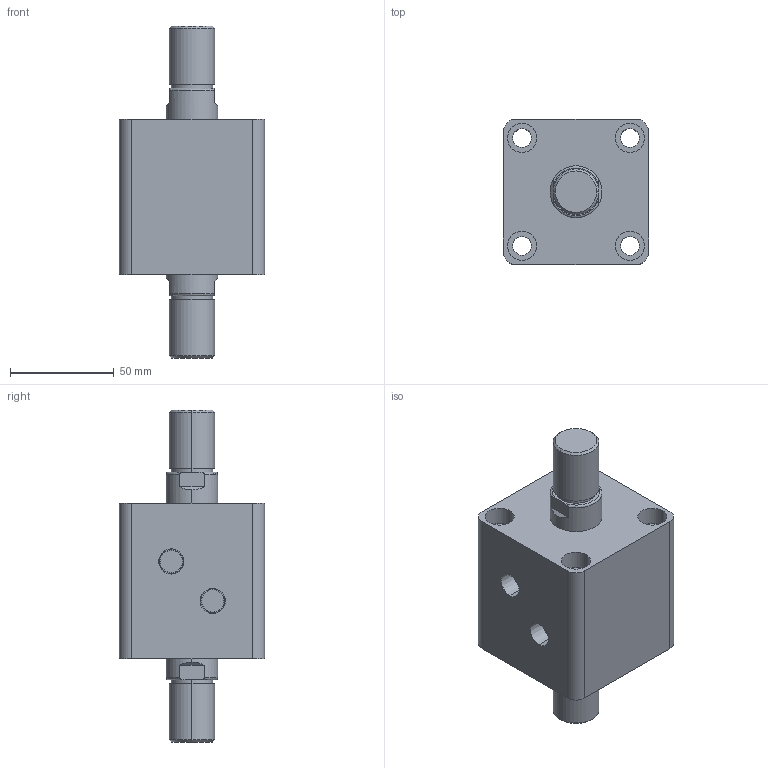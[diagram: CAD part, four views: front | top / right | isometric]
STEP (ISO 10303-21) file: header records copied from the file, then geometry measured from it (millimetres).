
FILE_DESCRIPTION (( 'STEP AP203' ), '1' );
FILE_NAME ('HTB-SW40-5W.STEP', '2019-10-07T09:03:41', ( '微软用户' ), ( '微软中国' ), 'SwSTEP 2.0', 'SolidWorks 2012', '' );
FILE_SCHEMA (( 'CONFIG_CONTROL_DESIGN' ));
Length unit declared in the file: millimetre
Products named in the file (3): HTB-SW40-5W; HTB-SW40-5W活塞杆; HTB-SW40-5掛极
Assembly tree (2 placements, depth 2):
  HTB-SW40-5W
    HTB-SW40-5掛极
    HTB-SW40-5W活塞杆
Bounding box: 70 x 70 x 160 mm (x, y, z)
Volume: 368086.4 mm3; surface area: 62489 mm2
Topology: 2 solids, 2 shells, 108 faces, 240 edges, 156 vertices
Faces by surface type: cylinder 52, plane 36, torus 12, cone 8
Entity records: 3449 total; most frequent: CARTESIAN_POINT 629, DIRECTION 586, ORIENTED_EDGE 480, AXIS2_PLACEMENT_3D 249, EDGE_CURVE 240, VERTEX_POINT 156, EDGE_LOOP 138, CIRCLE 136
